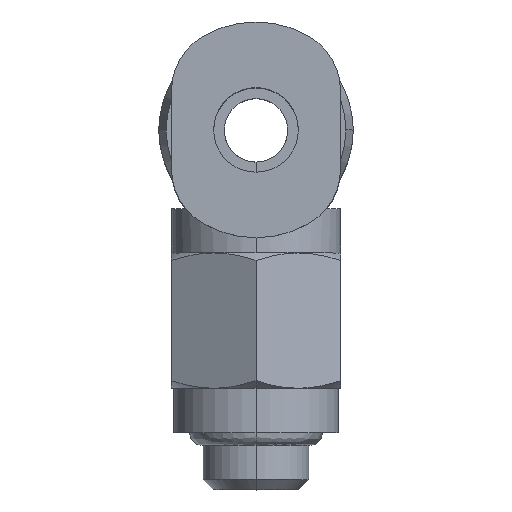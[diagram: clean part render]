
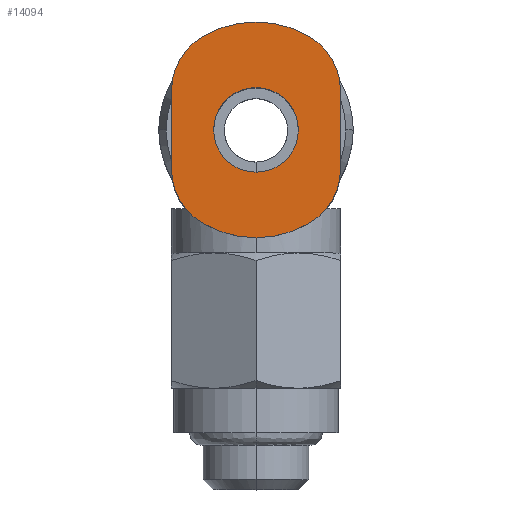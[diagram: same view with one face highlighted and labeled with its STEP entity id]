
A CAD part, top view. The second image highlights one B-rep face of the part: STEP entity #14094.
In plain terms, the highlighted planar face has unit normal (0, 0, 1).
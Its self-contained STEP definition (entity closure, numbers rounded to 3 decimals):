
#95 = CARTESIAN_POINT ( 'NONE',  ( 2., 17., 14.6 ) ) ;
#170 = DIRECTION ( 'NONE',  ( 0., 0., -1. ) ) ;
#195 = VERTEX_POINT ( 'NONE', #2646 ) ;
#358 = FACE_BOUND ( 'NONE', #12099, .T. ) ;
#1333 = CARTESIAN_POINT ( 'NONE',  ( -1., 18.832, 14.6 ) ) ;
#1365 = CIRCLE ( 'NONE', #7191, 3. ) ;
#1449 = DIRECTION ( 'NONE',  ( 1., 0., 0. ) ) ;
#1866 = AXIS2_PLACEMENT_3D ( 'NONE', #16175, #16274, #9994 ) ;
#1903 = CARTESIAN_POINT ( 'NONE',  ( 2.5, 21.43, 14.6 ) ) ;
#1950 = CIRCLE ( 'NONE', #11468, 3. ) ;
#2001 = CARTESIAN_POINT ( 'NONE',  ( -2.5, 12.57, 14.6 ) ) ;
#2242 = CARTESIAN_POINT ( 'NONE',  ( -4., 18.832, 14.6 ) ) ;
#2321 = DIRECTION ( 'NONE',  ( 1., 0., 0. ) ) ;
#2552 = DIRECTION ( 'NONE',  ( 1., 0., 0. ) ) ;
#2646 = CARTESIAN_POINT ( 'NONE',  ( 4., 15.168, 14.6 ) ) ;
#2676 = DIRECTION ( 'NONE',  ( 0., 0., -1. ) ) ;
#2829 = ORIENTED_EDGE ( 'NONE', *, *, #9699, .F. ) ;
#2956 = AXIS2_PLACEMENT_3D ( 'NONE', #15619, #11915, #8072 ) ;
#3052 = EDGE_CURVE ( 'NONE', #7047, #8522, #1365, .T. ) ;
#3384 = CIRCLE ( 'NONE', #10498, 5. ) ;
#4042 = DIRECTION ( 'NONE',  ( 0., 0., -1. ) ) ;
#4180 = CARTESIAN_POINT ( 'NONE',  ( 4., 18.832, 14.6 ) ) ;
#4187 = EDGE_CURVE ( 'NONE', #5492, #11664, #8768, .T. ) ;
#4313 = EDGE_CURVE ( 'NONE', #14628, #15705, #8359, .T. ) ;
#4375 = EDGE_CURVE ( 'NONE', #11664, #5492, #11501, .T. ) ;
#4732 = PLANE ( 'NONE',  #8102 ) ;
#4948 = DIRECTION ( 'NONE',  ( 1., 0., 0. ) ) ;
#5104 = CARTESIAN_POINT ( 'NONE',  ( -2.5, 21.43, 14.6 ) ) ;
#5286 = DIRECTION ( 'NONE',  ( -1., 0., 0. ) ) ;
#5321 = EDGE_CURVE ( 'NONE', #195, #8522, #11552, .T. ) ;
#5492 = VERTEX_POINT ( 'NONE', #16028 ) ;
#5554 = CIRCLE ( 'NONE', #9528, 3. ) ;
#6350 = CARTESIAN_POINT ( 'NONE',  ( 1., 18.832, 14.6 ) ) ;
#6512 = CARTESIAN_POINT ( 'NONE',  ( 1., 18.832, 14.6 ) ) ;
#7047 = VERTEX_POINT ( 'NONE', #1903 ) ;
#7119 = ORIENTED_EDGE ( 'NONE', *, *, #12331, .F. ) ;
#7191 = AXIS2_PLACEMENT_3D ( 'NONE', #6512, #2676, #1449 ) ;
#7438 = VERTEX_POINT ( 'NONE', #5104 ) ;
#7763 = VECTOR ( 'NONE', #13406, 1000. ) ;
#8006 = VECTOR ( 'NONE', #15464, 1000. ) ;
#8072 = DIRECTION ( 'NONE',  ( 1., 0., 0. ) ) ;
#8102 = AXIS2_PLACEMENT_3D ( 'NONE', #6350, #11286, #4948 ) ;
#8359 = LINE ( 'NONE', #2242, #7763 ) ;
#8489 = DIRECTION ( 'NONE',  ( 0., 0., -1. ) ) ;
#8522 = VERTEX_POINT ( 'NONE', #4180 ) ;
#8768 = CIRCLE ( 'NONE', #15747, 2. ) ;
#8818 = ORIENTED_EDGE ( 'NONE', *, *, #4313, .T. ) ;
#8918 = CARTESIAN_POINT ( 'NONE',  ( -4., 18.832, 14.6 ) ) ;
#9091 = DIRECTION ( 'NONE',  ( 0., 0., -1. ) ) ;
#9313 = CARTESIAN_POINT ( 'NONE',  ( 4., 15.168, 14.6 ) ) ;
#9412 = EDGE_LOOP ( 'NONE', ( #14754, #12766, #11210, #7119, #2829, #8818, #15109, #12152 ) ) ;
#9528 = AXIS2_PLACEMENT_3D ( 'NONE', #13549, #8489, #2321 ) ;
#9699 = EDGE_CURVE ( 'NONE', #14628, #7438, #13249, .T. ) ;
#9994 = DIRECTION ( 'NONE',  ( -1., 0., 0. ) ) ;
#10389 = DIRECTION ( 'NONE',  ( 0., 0., -1. ) ) ;
#10498 = AXIS2_PLACEMENT_3D ( 'NONE', #15244, #9091, #15403 ) ;
#10907 = VERTEX_POINT ( 'NONE', #2001 ) ;
#11139 = FACE_OUTER_BOUND ( 'NONE', #9412, .T. ) ;
#11173 = AXIS2_PLACEMENT_3D ( 'NONE', #1333, #170, #2552 ) ;
#11210 = ORIENTED_EDGE ( 'NONE', *, *, #3052, .F. ) ;
#11286 = DIRECTION ( 'NONE',  ( 0., 0., 1. ) ) ;
#11468 = AXIS2_PLACEMENT_3D ( 'NONE', #13900, #4042, #12781 ) ;
#11501 = CIRCLE ( 'NONE', #1866, 2. ) ;
#11552 = LINE ( 'NONE', #9313, #8006 ) ;
#11664 = VERTEX_POINT ( 'NONE', #95 ) ;
#11915 = DIRECTION ( 'NONE',  ( 0., 0., -1. ) ) ;
#12099 = EDGE_LOOP ( 'NONE', ( #13496, #15720 ) ) ;
#12152 = ORIENTED_EDGE ( 'NONE', *, *, #12480, .F. ) ;
#12331 = EDGE_CURVE ( 'NONE', #7438, #7047, #3384, .T. ) ;
#12480 = EDGE_CURVE ( 'NONE', #14650, #10907, #15510, .T. ) ;
#12516 = CARTESIAN_POINT ( 'NONE',  ( -4., 15.168, 14.6 ) ) ;
#12766 = ORIENTED_EDGE ( 'NONE', *, *, #5321, .T. ) ;
#12781 = DIRECTION ( 'NONE',  ( 1., 0., 0. ) ) ;
#13249 = CIRCLE ( 'NONE', #11173, 3. ) ;
#13406 = DIRECTION ( 'NONE',  ( 0., -1., 0. ) ) ;
#13496 = ORIENTED_EDGE ( 'NONE', *, *, #4187, .T. ) ;
#13549 = CARTESIAN_POINT ( 'NONE',  ( -1., 15.168, 14.6 ) ) ;
#13742 = EDGE_CURVE ( 'NONE', #195, #14650, #1950, .T. ) ;
#13840 = CARTESIAN_POINT ( 'NONE',  ( 2.5, 12.57, 14.6 ) ) ;
#13900 = CARTESIAN_POINT ( 'NONE',  ( 1., 15.168, 14.6 ) ) ;
#14094 = ADVANCED_FACE ( 'NONE', ( #11139, #358 ), #4732, .T. ) ;
#14628 = VERTEX_POINT ( 'NONE', #8918 ) ;
#14650 = VERTEX_POINT ( 'NONE', #13840 ) ;
#14754 = ORIENTED_EDGE ( 'NONE', *, *, #13742, .F. ) ;
#15109 = ORIENTED_EDGE ( 'NONE', *, *, #15452, .F. ) ;
#15244 = CARTESIAN_POINT ( 'NONE',  ( 0., 17.1, 14.6 ) ) ;
#15390 = CARTESIAN_POINT ( 'NONE',  ( 0., 17., 14.6 ) ) ;
#15403 = DIRECTION ( 'NONE',  ( 1., 0., 0. ) ) ;
#15452 = EDGE_CURVE ( 'NONE', #10907, #15705, #5554, .T. ) ;
#15464 = DIRECTION ( 'NONE',  ( 0., 1., 0. ) ) ;
#15510 = CIRCLE ( 'NONE', #2956, 5. ) ;
#15619 = CARTESIAN_POINT ( 'NONE',  ( 0., 16.9, 14.6 ) ) ;
#15705 = VERTEX_POINT ( 'NONE', #12516 ) ;
#15720 = ORIENTED_EDGE ( 'NONE', *, *, #4375, .T. ) ;
#15747 = AXIS2_PLACEMENT_3D ( 'NONE', #15390, #10389, #5286 ) ;
#16028 = CARTESIAN_POINT ( 'NONE',  ( -2., 17., 14.6 ) ) ;
#16175 = CARTESIAN_POINT ( 'NONE',  ( 0., 17., 14.6 ) ) ;
#16274 = DIRECTION ( 'NONE',  ( 0., 0., -1. ) ) ;
